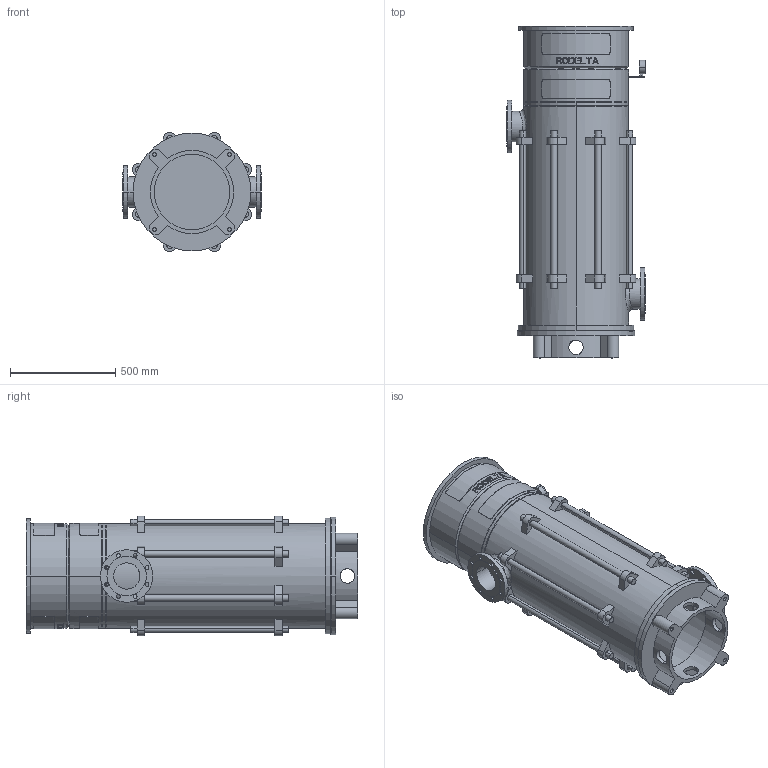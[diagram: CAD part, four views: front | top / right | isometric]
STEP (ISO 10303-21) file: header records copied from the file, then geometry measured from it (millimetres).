
FILE_DESCRIPTION((''),'2;1');
FILE_NAME('LS5_6TR_0GR_ABOVE_30KW','2023-08-08T',('Lyritlocal'),(''),'PRO/ENGINEER BY PARAMETRIC TECHNOLOGY CORPORATION, 2016360','PRO/ENGINEER BY PARAMETRIC TECHNOLOGY CORPORATION, 2016360','');
FILE_SCHEMA(('CONFIG_CONTROL_DESIGN'));
Length unit declared in the file: millimetre
Products named in the file (1): LS5_6TR_0GR_ABOVE_30KW
Bounding box: 660 x 1580 x 568.08 mm (x, y, z)
Volume: 46767504.2 mm3; surface area: 6926326.1 mm2
Topology: 3 solids, 7 shells, 672 faces, 1747 edges, 1158 vertices
Faces by surface type: plane 414, cylinder 242, cone 12, bspline 4
Entity records: 21930 total; most frequent: CARTESIAN_POINT 5486, ORIENTED_EDGE 3478, DIRECTION 3269, EDGE_CURVE 1747, AXIS2_PLACEMENT_3D 1241, VERTEX_POINT 1158, EDGE_LOOP 809, VECTOR 787
